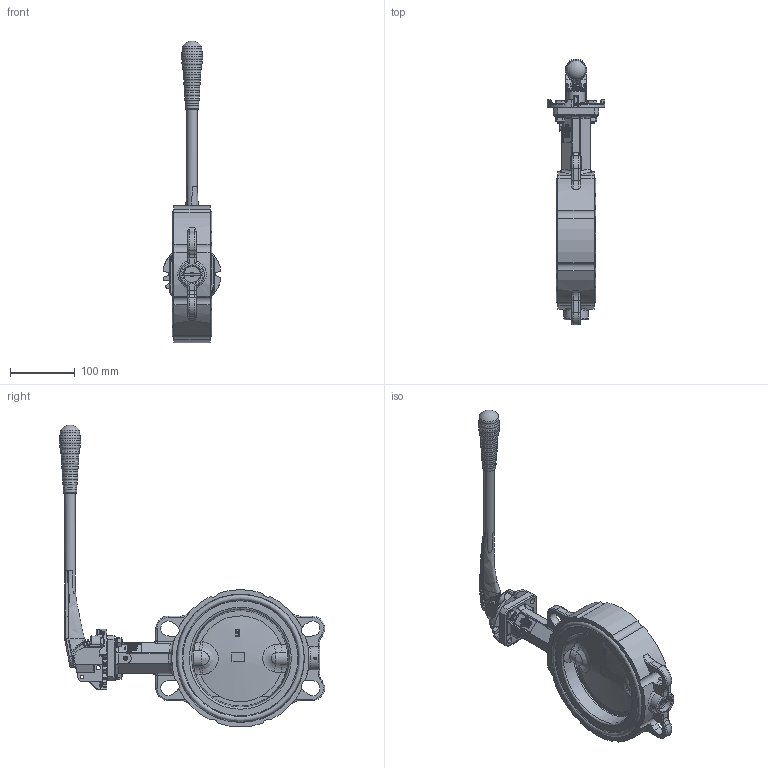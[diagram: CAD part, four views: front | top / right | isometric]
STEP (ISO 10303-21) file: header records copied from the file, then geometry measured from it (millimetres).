
FILE_DESCRIPTION((''),'2;1');
FILE_NAME('K:\Inventor\1 Artikel\10) Absperrklappen\10a) manuell\ABO Valve\890-GGG, 994B\890-GGG, DN150\890-GGG, DN150, 3D\890-GGG, DN150, PN6-16, HH, 3D.stp','2019-08-13T11:18:50',('claudia'),(''),'Autodesk Inventor 2013','Autodesk Inventor 2013','');
FILE_SCHEMA(('AUTOMOTIVE_DESIGN { 1 0 10303 214 1 1 1 1 }'));
Length unit declared in the file: millimetre
Products named in the file (1): Bauteil6
Bounding box: 89.16 x 410.11 x 466.19 mm (x, y, z)
Surface area: 256479.8 mm2
Topology: 9 solids, 10 shells, 1952 faces, 5197 edges, 3311 vertices
Faces by surface type: plane 713, bspline 632, cylinder 354, torus 141, cone 96, sphere 16
Full cylindrical faces by diameter (mm): 5.35 x1, 5.5 x2, 6.3 x2, 6.5 x2, 6.8 x3, 7 x2, 8 x4, 9 x6, 9.5 x1, 13 x2, 16 x2, 16.5 x2, 17.4 x2, 17.5 x1, 20.5 x1, 22 x4, 22.15 x1, 22.5 x1, 25 x2, 27 x1, 29 x1, 32 x1, 34 x1, 56 x1, 196 x1, 198 x2
Entity records: 84852 total; most frequent: CARTESIAN_POINT 40729, ORIENTED_EDGE 10044, DIRECTION 7156, EDGE_CURVE 5024, VERTEX_POINT 3263, AXIS2_PLACEMENT_3D 2508, EDGE_LOOP 2200, VECTOR 2140
